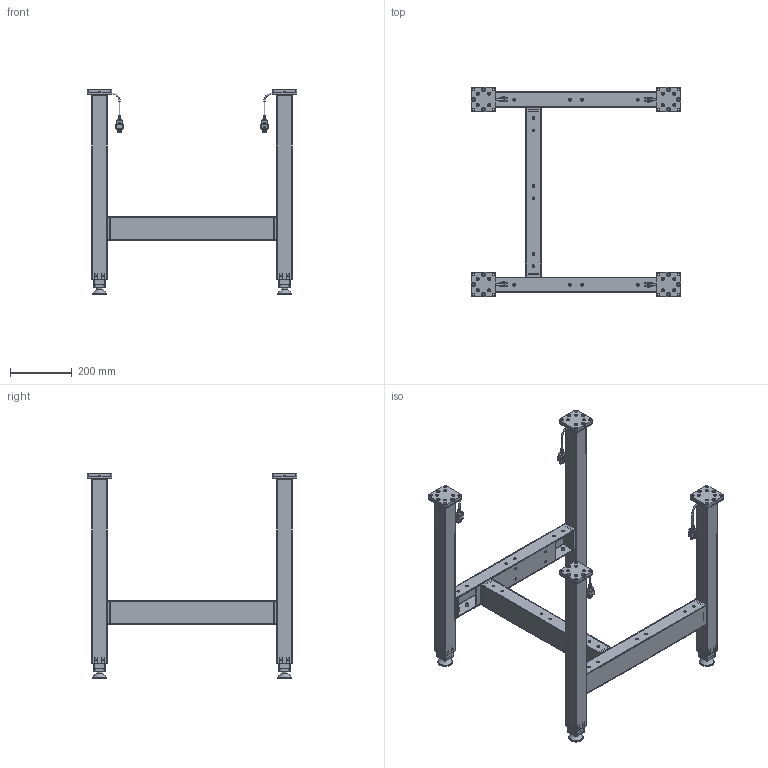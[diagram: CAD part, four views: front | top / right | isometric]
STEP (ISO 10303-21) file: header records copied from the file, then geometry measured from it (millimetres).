
FILE_DESCRIPTION(/* description */ ('Unknown'),/* implementation_level */ '2;1');
FILE_NAME(/* name */ 'Untergestell SE.3 4330 600_00-Eingefahren',/* time_stamp */ '2022-02-03T17:08:31+01:00',/* author */ ('Unknown'),/* organization */ ('Unknown'),/* preprocessor_version */ 'ST-DEVELOPER v18.1',/* originating_system */ 'Solid Edge',/* authorisation */ 'Unknown');
FILE_SCHEMA (('AUTOMOTIVE_DESIGN {1 0 10303 214 3 1 1}'));
Length unit declared in the file: millimetre
Products named in the file (26): Untergestell SE.3 4330 600; 908.02003_oa_0; 127.00655; 127.00658; Aussenrohr 50x50x2 bearbeitet_2018 08 15; Flanschplatte_2018 08 15; Anschweissplatte Traverse_2018 08 15; 127.00658_515_565_Kehlnaht 2_oa_1; 127.00658_515_565_Kehlnaht 2_oa_2; 127.00660; Innenrohr 40x40x2_2018 08 15; Bodenplatte_2018 0815; 128.00070; 142.00077; 142.00166; Kabel Molex; 908.02003_oa_3; 115.00150; 127.00365; 127.00055; 127.00039; 113.00006; 113.00006-ohne Mutter; Mutter M10; 908.02003_oa_6; 908.02003_oa_9
Assembly tree (100 placements, depth 4):
  Untergestell SE.3 4330 600
    908.02003_oa_0
      127.00655
      127.00658
        Aussenrohr 50x50x2 bearbeitet_2018 08 15
        Flanschplatte_2018 08 15
        Anschweissplatte Traverse_2018 08 15
        127.00658_515_565_Kehlnaht 2_oa_1
        127.00658_515_565_Kehlnaht 2_oa_2
      127.00660
        Innenrohr 40x40x2_2018 08 15
        Bodenplatte_2018 0815
      128.00070  x8
      142.00077  x3
      142.00166  x4
      Kabel Molex
    908.02003_oa_3
      127.00655
      127.00658
        Aussenrohr 50x50x2 bearbeitet_2018 08 15
        Flanschplatte_2018 08 15
        Anschweissplatte Traverse_2018 08 15
        127.00658_515_565_Kehlnaht 2_oa_1
        127.00658_515_565_Kehlnaht 2_oa_2
      127.00660
        Innenrohr 40x40x2_2018 08 15
        Bodenplatte_2018 0815
      128.00070  x8
      142.00077  x3
      142.00166  x4
      Kabel Molex
    115.00150  x3
      127.00365
        127.00055
        127.00039  x2
    113.00006  x4
      113.00006-ohne Mutter
      Mutter M10
    908.02003_oa_6
      127.00655
      127.00658
        Aussenrohr 50x50x2 bearbeitet_2018 08 15
        Flanschplatte_2018 08 15
        Anschweissplatte Traverse_2018 08 15
        127.00658_515_565_Kehlnaht 2_oa_1
        127.00658_515_565_Kehlnaht 2_oa_2
      127.00660
        Innenrohr 40x40x2_2018 08 15
        Bodenplatte_2018 0815
      128.00070  x8
      142.00077  x3
      142.00166  x4
      Kabel Molex
    908.02003_oa_9
      127.00655
      127.00658
        Aussenrohr 50x50x2 bearbeitet_2018 08 15
        Flanschplatte_2018 08 15
        Anschweissplatte Traverse_2018 08 15
        127.00658_515_565_Kehlnaht 2_oa_1
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Bounding box: 680 x 680 x 663 mm (x, y, z)
Volume: 2845788.6 mm3; surface area: 2519030.4 mm2
Topology: 141 solids, 141 shells, 4298 faces, 10996 edges, 7252 vertices
Faces by surface type: plane 2878, cylinder 900, torus 220, cone 156, bspline 144
Full cylindrical faces by diameter (mm): 4.917 x82, 5 x24, 5.5 x16, 6 x12, 6.5 x12, 6.647 x12, 6.8 x24, 8.376 x8, 8.5 x16, 9 x86, 9.5 x4, 10 x20, 13 x12, 15 x4, 19 x4, 25 x4, 29 x4, 35 x4, 39 x4, 47 x4
Entity records: 32898 total; most frequent: CARTESIAN_POINT 6365, DIRECTION 4422, ORIENTED_EDGE 4138, EDGE_CURVE 2069, AXIS2_PLACEMENT_3D 1547, VERTEX_POINT 1423, LINE 1328, VECTOR 1328
